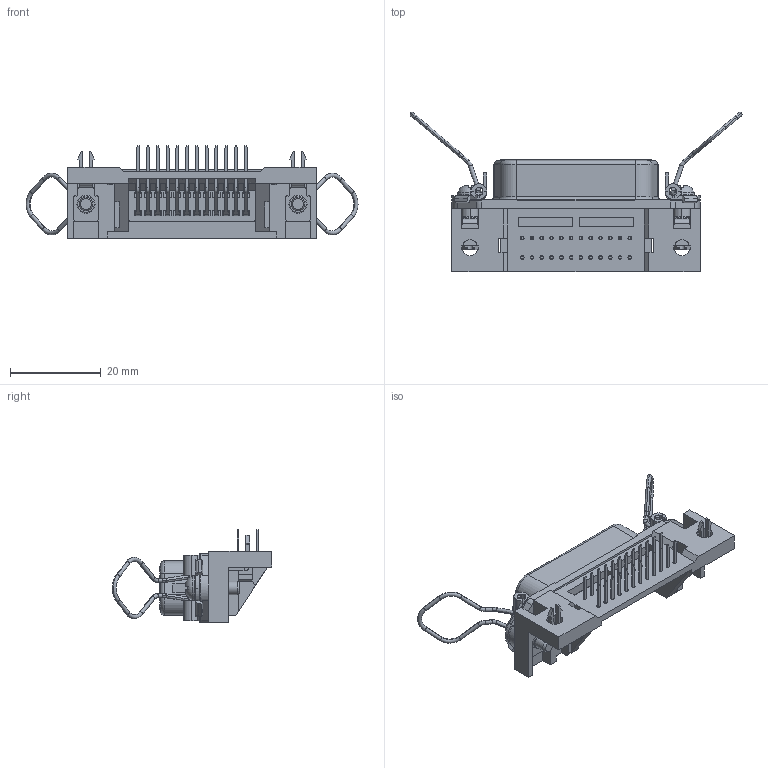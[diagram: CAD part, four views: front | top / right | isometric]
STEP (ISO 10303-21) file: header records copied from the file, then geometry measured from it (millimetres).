
FILE_DESCRIPTION (( 'STEP AP203' ), '1' );
FILE_NAME ('57LE-40240-7700(D29)-FA.STEP', '2021-05-17T02:34:28', ( '' ), ( '' ), 'SwSTEP 2.0', 'SolidWorks 2018', '' );
FILE_SCHEMA (( 'CONFIG_CONTROL_DESIGN' ));
Length unit declared in the file: millimetre
Products named in the file (1): 57LE-40240-7700(D29)-FA
Bounding box: 73.26 x 35.16 x 20.43 mm (x, y, z)
Volume: 8346.2 mm3; surface area: 10890.5 mm2
Topology: 1 solids, 5 shells, 1471 faces, 4036 edges, 2562 vertices
Faces by surface type: plane 1015, cylinder 298, torus 70, cone 56, bspline 32
Entity records: 46927 total; most frequent: CARTESIAN_POINT 9084, ORIENTED_EDGE 8064, DIRECTION 7702, EDGE_CURVE 4032, VECTOR 3002, LINE 3002, VERTEX_POINT 2562, AXIS2_PLACEMENT_3D 2350
